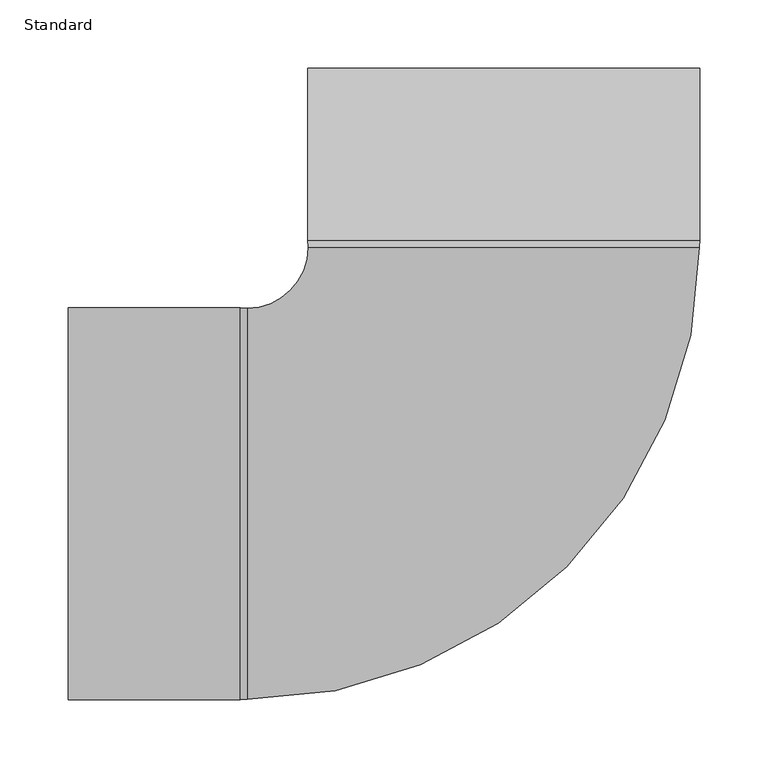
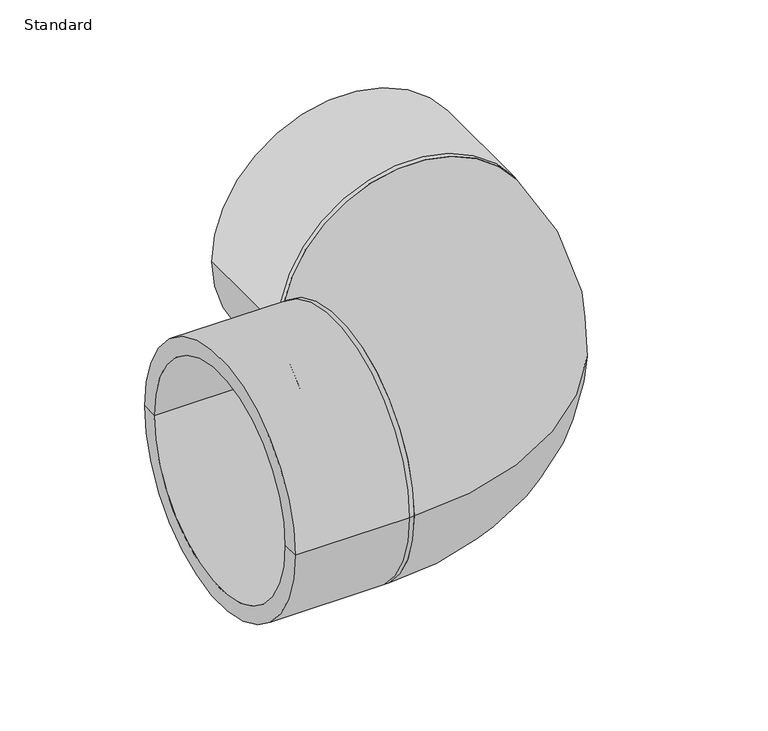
"""IFC4 building model written with IfcOpenShell, lengths in millimetres: pipe fitting geometry, Durapipe_PipeFitting_PVC_Elbow90deg_225To315 : Standard."""

from ifc_helpers import new_model, si_unit, point, frame, origin, place, context, project, spatial, polyline, circle_curve, ellipse_curve, trimmed, source, transform, mapped, element, save
from ifc_brep_helpers import plane_surface, cylinder_surface, revolved_surface, advanced_brep


def standard_c7f499f5(model_context):
    return source(origin(), model_context, "Body", "AdvancedBrep", [
        advanced_brep(
        [(143.5, 193.0, 0.0), (-143.5, 193.0, 0.0), (-143.5, 319.0, 0.0), (143.5, 319.0, 0.0), (143.2, 188.0, 0.0), (-143.2, 188.0, 0.0), (-125.0, 319.0, 0.0), (125.0, 319.0, 0.0), (125.0, 193.0, 0.0), (-125.0, 193.0, 0.0), (0.0, 193.0, 0.0), (0.0, 188.0, 0.0)],
        [
            (0, 1, circle_curve(frame((0.0, 193.0, 0.0), z_axis=(0.0, 1.0, 0.0), x_axis=(-1.0, 0.0, 0.0)), 143.5)),
            (1, 2),
            (2, 3, circle_curve(frame((0.0, 319.0, 0.0), z_axis=(0.0, -1.0, 0.0), x_axis=(-1.0, 0.0, 0.0)), 143.5)),
            (3, 0),
            (1, 0, circle_curve(frame((0.0, 193.0, 0.0), z_axis=(0.0, 1.0, 0.0), x_axis=(-1.0, 0.0, 0.0)), 143.5)),
            (3, 2, circle_curve(frame((0.0, 319.0, 0.0), z_axis=(0.0, -1.0, 0.0), x_axis=(-1.0, 0.0, 0.0)), 143.5)),
            (0, 4),
            (4, 5, circle_curve(frame((0.0, 188.0, 0.0), z_axis=(0.0, 1.0, 0.0), x_axis=(-1.0, 0.0, 0.0)), 143.2)),
            (5, 1),
            (5, 4, circle_curve(frame((0.0, 188.0, 0.0), z_axis=(0.0, 1.0, 0.0), x_axis=(-1.0, 0.0, 0.0)), 143.2)),
            (2, 6),
            (6, 7, circle_curve(frame((0.0, 319.0, 0.0), z_axis=(0.0, -1.0, 0.0), x_axis=(-1.0, 0.0, 0.0)), 125.0)),
            (7, 3),
            (7, 6, circle_curve(frame((0.0, 319.0, 0.0), z_axis=(0.0, -1.0, 0.0), x_axis=(-1.0, 0.0, 0.0)), 125.0)),
            (8, 9, circle_curve(frame((0.0, 193.0, 0.0), z_axis=(0.0, 1.0, 0.0), x_axis=(-1.0, 0.0, 0.0)), 125.0)),
            (9, 10),
            (10, 8),
            (9, 8, circle_curve(frame((0.0, 193.0, 0.0), z_axis=(0.0, 1.0, 0.0), x_axis=(-1.0, 0.0, 0.0)), 125.0)),
            (6, 9),
            (8, 7),
            (4, 11),
            (11, 5),
        ],
        [
            cylinder_surface(frame((0.0, 2262.0, 0.0), z_axis=(0.0, -1.0, 0.0), x_axis=(-1.0, 0.0, 0.0)), 143.5),
            revolved_surface(polyline([(-143.5, 193.0, 0.0), (-143.2, 188.0, 0.0)]), (0.0, 2262.0, 0.0), (0.0, -1.0, 0.0)),
            plane_surface(frame((0.0, 319.0, 0.0), z_axis=(0.0, 1.0, 0.0), x_axis=(-1.0, 0.0, 0.0))),
            plane_surface(frame((0.0, 193.0, 0.0), z_axis=(0.0, 1.0, 0.0), x_axis=(-1.0, 0.0, 0.0))),
            revolved_surface(polyline([(-125.0, 193.0, 0.0), (-125.0, 319.0, 0.0)]), (0.0, 2262.0, 0.0), (0.0, -1.0, 0.0)),
            plane_surface(frame((0.0, 188.0, 0.0), z_axis=(0.0, -1.0, 0.0), x_axis=(-1.0, 0.0, 0.0))),
        ],
        [
            (0, [[1, 2, 3, 4]]),
            (0, [[-2, 5, -4, 6]]),
            (1, [[-1, 7, 8, 9]]),
            (1, [[-5, -9, 10, -7]]),
            (2, [[-3, 11, 12, 13]]),
            (2, [[-6, -13, 14, -11]]),
            (3, [[15, 16, 17]]),
            (3, [[-16, 18, -17]]),
            (4, [[-12, 19, -15, 20]]),
            (4, [[-14, -20, -18, -19]]),
            (5, [[-8, 21, 22]]),
            (5, [[-10, -22, -21]]),
        ],
    ),
        advanced_brep(
        [(-319.0, -125.0, 0.0), (-319.0, 125.0, 0.0), (-319.0, 143.5, 0.0), (-319.0, -143.5, 0.0), (-188.0, 143.2, 0.0), (-188.0, -143.2, 0.0), (-193.0, -143.5, 0.0), (-193.0, 143.5, 0.0), (-193.0, -125.0, 0.0), (-193.0, 125.0, 0.0), (-193.0, 0.0, 0.0), (-188.0, 0.0, 0.0)],
        [
            (0, 1, circle_curve(frame((-319.0, 0.0, 0.0), z_axis=(1.0, 0.0, 0.0), x_axis=(0.0, 1.0, 0.0)), 125.0)),
            (1, 2),
            (2, 3, circle_curve(frame((-319.0, 0.0, 0.0), z_axis=(-1.0, 0.0, 0.0), x_axis=(0.0, 1.0, 0.0)), 143.5)),
            (3, 0),
            (1, 0, circle_curve(frame((-319.0, 0.0, 0.0), z_axis=(1.0, 0.0, 0.0), x_axis=(0.0, 1.0, 0.0)), 125.0)),
            (3, 2, circle_curve(frame((-319.0, 0.0, 0.0), z_axis=(-1.0, 0.0, 0.0), x_axis=(0.0, 1.0, 0.0)), 143.5)),
            (4, 5, circle_curve(frame((-188.0, 0.0, 0.0), z_axis=(-1.0, 0.0, 0.0), x_axis=(0.0, 1.0, 0.0)), 143.2)),
            (5, 6),
            (6, 7, circle_curve(frame((-193.0, 0.0, 0.0), z_axis=(1.0, 0.0, 0.0), x_axis=(0.0, 1.0, 0.0)), 143.5)),
            (7, 4),
            (5, 4, circle_curve(frame((-188.0, 0.0, 0.0), z_axis=(-1.0, 0.0, 0.0), x_axis=(0.0, 1.0, 0.0)), 143.2)),
            (7, 6, circle_curve(frame((-193.0, 0.0, 0.0), z_axis=(1.0, 0.0, 0.0), x_axis=(0.0, 1.0, 0.0)), 143.5)),
            (2, 7),
            (6, 3),
            (0, 8),
            (8, 9, circle_curve(frame((-193.0, 0.0, 0.0), z_axis=(1.0, 0.0, 0.0), x_axis=(0.0, 1.0, 0.0)), 125.0)),
            (9, 1),
            (9, 8, circle_curve(frame((-193.0, 0.0, 0.0), z_axis=(1.0, 0.0, 0.0), x_axis=(0.0, 1.0, 0.0)), 125.0)),
            (8, 10),
            (10, 9),
            (4, 11),
            (11, 5),
        ],
        [
            plane_surface(frame((-319.0, 0.0, 0.0), z_axis=(-1.0, 0.0, 0.0), x_axis=(0.0, 1.0, 0.0))),
            revolved_surface(polyline([(-188.0, 143.2, 0.0), (-193.0, 143.5, 0.0)]), (2130.5, 0.0, 0.0), (-1.0, 0.0, 0.0)),
            cylinder_surface(frame((2130.5, 0.0, 0.0), z_axis=(-1.0, 0.0, 0.0), x_axis=(0.0, 1.0, 0.0)), 143.5),
            revolved_surface(polyline([(-319.0, 125.0, 0.0), (-193.0, 125.0, 0.0)]), (2130.5, 0.0, 0.0), (-1.0, 0.0, 0.0)),
            plane_surface(frame((-193.0, 0.0, 0.0), z_axis=(-1.0, 0.0, 0.0), x_axis=(0.0, 1.0, 0.0))),
            plane_surface(frame((-188.0, 0.0, 0.0), z_axis=(1.0, 0.0, 0.0), x_axis=(0.0, 1.0, 0.0))),
        ],
        [
            (0, [[1, 2, 3, 4]]),
            (0, [[-2, 5, -4, 6]]),
            (1, [[7, 8, 9, 10]]),
            (1, [[11, -10, 12, -8]]),
            (2, [[-3, 13, -9, 14]]),
            (2, [[-6, -14, -12, -13]]),
            (3, [[-1, 15, 16, 17]]),
            (3, [[-5, -17, 18, -15]]),
            (4, [[-16, 19, 20]]),
            (4, [[-18, -20, -19]]),
            (5, [[-7, 21, 22]]),
            (5, [[-21, -11, -22]]),
        ],
    ),
        advanced_brep(
        [(-143.2, 188.0, 0.0), (-188.0, 143.2, 0.0), (-188.0, -143.2, 0.0), (143.2, 188.0, 0.0)],
        [
            (0, 1, circle_curve(frame((-188.0, 188.0, 0.0), z_axis=(0.0, 0.0, -1.0), x_axis=(0.0, -1.0, 0.0)), 44.8)),
            (1, 2, circle_curve(frame((-188.0, 0.0, 0.0), z_axis=(1.0, 0.0, 0.0), x_axis=(0.0, 1.0, 0.0)), 143.2)),
            (2, 3, circle_curve(frame((-188.0, 188.0, 0.0), z_axis=(0.0, 0.0, 1.0), x_axis=(0.0, -1.0, 0.0)), 331.2)),
            (3, 0, circle_curve(frame((0.0, 188.0, 0.0), z_axis=(0.0, -1.0, 0.0), x_axis=(-1.0, 0.0, 0.0)), 143.2)),
            (2, 1, circle_curve(frame((-188.0, 0.0, 0.0), z_axis=(1.0, 0.0, 0.0), x_axis=(0.0, 1.0, 0.0)), 143.2)),
            (0, 3, circle_curve(frame((0.0, 188.0, 0.0), z_axis=(0.0, -1.0, 0.0), x_axis=(-1.0, 0.0, 0.0)), 143.2)),
        ],
        [
            revolved_surface(trimmed(ellipse_curve(frame((-188.0, 0.0, 0.0), z_axis=(-1.0, 0.0, 0.0), x_axis=(0.0, 1.0, 0.0)), 143.2, 143.2), [point((-188.0, -143.2, 0.0))], [point((-188.0, 143.2, 0.0))], True, "CARTESIAN"), (-188.0, 188.0, 0.0), (0.0, 0.0, 1.0)),
            revolved_surface(trimmed(ellipse_curve(frame((-188.0, 0.0, 0.0), z_axis=(-1.0, 0.0, 0.0), x_axis=(0.0, 1.0, 0.0)), 143.2, 143.2), [point((-188.0, 143.2, 0.0))], [point((-188.0, -143.2, 0.0))], True, "CARTESIAN"), (-188.0, 188.0, 0.0), (0.0, 0.0, 1.0)),
            plane_surface(frame((-188.0, 0.0, 0.0), z_axis=(-1.0, 0.0, 0.0), x_axis=(0.0, 0.0, 1.0))),
            plane_surface(frame((0.0, 188.0, 0.0), z_axis=(0.0, 1.0, 0.0), x_axis=(0.0, 0.0, 1.0))),
        ],
        [
            (0, [[1, 2, 3, 4]]),
            (1, [[-3, 5, -1, 6]]),
            (2, [[-2, -5]]),
            (3, [[-6, -4]]),
        ],
    ),
    ])


if __name__ == "__main__":
    model = new_model("IFC4")
    model_context = context("Model", 3, world=origin())
    ifc_project = project(units=[si_unit("LENGTHUNIT", "METRE", prefix="MILLI")], contexts=[model_context])
    site = spatial("IfcSite", under=ifc_project)
    building = spatial("IfcBuilding", under=site)
    placement = place(None, origin())
    standard_shape = standard_c7f499f5(model_context)
    element("IfcPipeFitting", 1, ObjectType="Durapipe_PipeFitting_PVC_Elbow90deg_225To315 : Standard", at=placement, inside=building, context=model_context, shape_type="MappedRepresentation", body=[
        mapped(standard_shape, transform((0.0, 0.0, 0.0), x_axis=(1.0, 0.0, 0.0), y_axis=(0.0, 1.0, 0.0), z_axis=(0.0, 0.0, 1.0))),
    ])
    save(model, "model.ifc")
